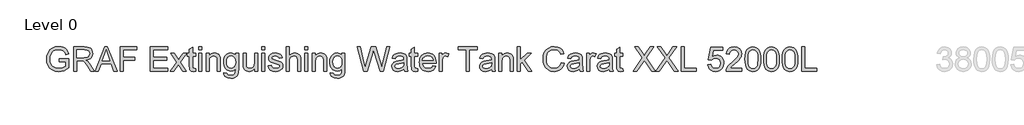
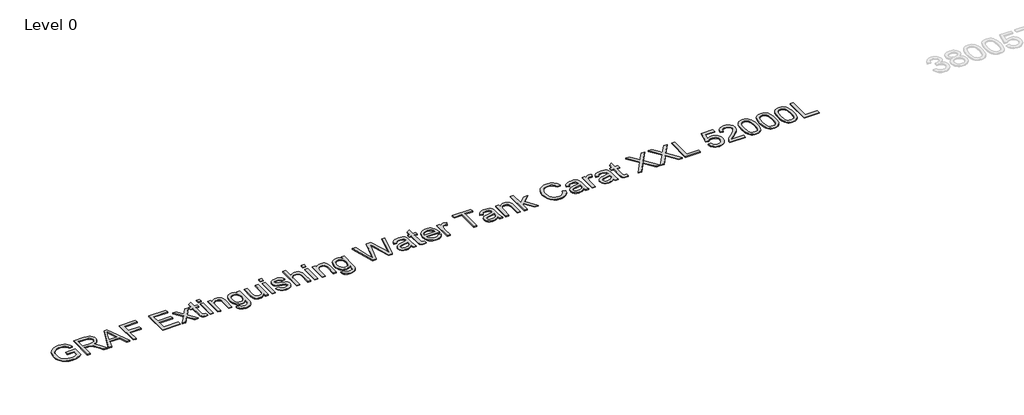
# One storey, part 6 of 37: 1 proxy.
"""IFC4 building model written with IfcOpenShell, lengths in millimetres."""

from ifc_helpers import new_model, si_unit, origin, origin_with_axes, place, context, project, spatial, polyline, outline, extrude, element, save

model = new_model("IFC4")

# Units and contexts
model_context = context("Model", 3, world=origin())
ifc_project = project(units=[si_unit("LENGTHUNIT", "METRE", prefix="MILLI")], contexts=[model_context])

# Site, building, storey
site = spatial("IfcSite", under=ifc_project)
building = spatial("IfcBuilding", under=site)
storey = spatial("IfcBuildingStorey", under=building, Name="Level 0", Elevation=0.0)

# Proxy
placement = place(None, origin())
element("IfcBuildingElementProxy", 1, Name="300mm Arial", ObjectType="300mm Arial", at=placement, inside=storey, context=model_context, shape_type="SweptSolid", body=[
    extrude(outline(polyline([(-17240.9940387, -29583.2545597), (-17240.9940387, -29545.5834434), (-17118.5629107, -29545.5834434), (-17118.5629107, -29658.2289103), (-17148.3153671, -29678.9222726), (-17179.0059225, -29693.7663111), (-17210.5610007, -29702.7058436), (-17242.9070251, -29705.6856877), (-17285.1674693, -29700.949207), (-17323.3628175, -29686.739765), (-17355.0926395, -29663.5540022), (-17377.9565055, -29631.8885595), (-17391.7796715, -29593.9047435), (-17396.3873935, -29551.7638609), (-17391.7980656, -29509.3194757), (-17378.0300819, -29469.8365406), (-17355.6536596, -29436.717964), (-17325.2390156, -29413.3666543), (-17288.1932987, -29399.5158972), (-17245.9236575, -29394.8989782), (-17214.8928112, -29397.5753197), (-17186.9889618, -29405.6043443), (-17163.4904994, -29418.4066377), (-17145.6758138, -29435.4027859), (-17132.4964413, -29457.4113262), (-17122.9039183, -29485.2507962), (-17157.6319786, -29495.0364573), (-17165.3850917, -29475.1800266), (-17174.8120678, -29460.1980323), (-17187.2832674, -29448.9040551), (-17204.169051, -29440.1116754), (-17224.3013932, -29434.4554897), (-17246.5122687, -29432.5700945), (-17272.5123287, -29434.6026425), (-17294.7415982, -29440.7002866), (-17313.1173039, -29450.0996716), (-17327.5566722, -29462.0374423), (-17346.9440533, -29491.0633317), (-17355.7732212, -29519.50061), (-17358.7162772, -29550.2187566), (-17355.175413, -29586.2436009), (-17344.5528204, -29615.8856927), (-17327.1703961, -29638.9334997), (-17303.3500369, -29655.1754898), (-17275.4737787, -29664.804801), (-17245.9236575, -29668.0145714), (-17219.831627, -29665.5957473), (-17194.3833899, -29658.3392749), (-17172.2828791, -29648.3420817), (-17156.234027, -29637.701095), (-17156.234027, -29583.2545597), (-17240.9940387, -29583.2545597)])), origin_with_axes(), (0.0, 0.0, 1.0), 10.0),
    extrude(outline(polyline([(-17057.3473467, -29700.9767982), (-17057.3473467, -29399.6078677), (-16927.4850024, -29399.6078677), (-16892.5821982, -29401.6404158), (-16867.1891434, -29407.7380598), (-16848.6294968, -29418.9952489), (-16834.2269167, -29436.5064318), (-16824.9838815, -29458.2206666), (-16821.9028698, -29482.087011), (-16827.0072325, -29511.7750881), (-16842.3203206, -29536.3863935), (-16853.9200997, -29546.4157764), (-16868.3019865, -29554.4310054), (-16905.4120827, -29564.4190016), (-16884.0013506, -29580.532233), (-16853.467145, -29619.3069952), (-16803.2144645, -29700.9767982), (-16846.9924219, -29700.9767982), (-16886.2086426, -29638.5104354), (-16914.5355562, -29597.1604991), (-16934.4379722, -29577.6259652), (-16952.3538253, -29570.4522663), (-16974.2060158, -29569.1278911), (-17019.6762304, -29569.1278911), (-17019.6762304, -29700.9767982), (-17057.3473467, -29700.9767982)]), holes=[polyline([(-17019.6762304, -29531.4567748), (-16935.3576771, -29531.4567748), (-16911.1418448, -29530.1232026), (-16892.3522719, -29526.1224859), (-16878.2072092, -29519.1879103), (-16867.9249074, -29509.0527613), (-16861.6617165, -29496.7930938), (-16859.5739861, -29483.4849626), (-16863.5563087, -29465.109257), (-16875.5032765, -29450.3020067), (-16896.058683, -29440.5347397), (-16925.8663217, -29437.278984), (-17019.6762304, -29437.278984), (-17019.6762304, -29531.4567748)])]), origin_with_axes(), (0.0, 0.0, 1.0), 10.0),
    extrude(outline(polyline([(-16791.0743586, -29700.9767982), (-16670.7769462, -29399.6078677), (-16638.6976362, -29399.6078677), (-16518.4002238, -29700.9767982), (-16558.2050557, -29700.9767982), (-16592.7123868, -29606.7990074), (-16716.835772, -29606.7990074), (-16751.2695268, -29700.9767982), (-16791.0743586, -29700.9767982)]), holes=[polyline([(-16703.003409, -29569.1278911), (-16606.4711735, -29569.1278911), (-16633.6208647, -29495.0364573), (-16654.7372912, -29437.278984), (-16673.499273, -29488.5617342), (-16703.003409, -29569.1278911)])]), origin_with_axes(), (0.0, 0.0, 1.0), 10.0),
    extrude(outline(polyline([(-16478.1539335, -29700.9767982), (-16478.1539335, -29399.6078677), (-16275.6716834, -29399.6078677), (-16275.6716834, -29437.278984), (-16440.4828172, -29437.278984), (-16440.4828172, -29526.7478853), (-16299.2161311, -29526.7478853), (-16299.2161311, -29564.4190016), (-16440.4828172, -29564.4190016), (-16440.4828172, -29700.9767982), (-16478.1539335, -29700.9767982)])), origin_with_axes(), (0.0, 0.0, 1.0), 10.0),
    extrude(outline(polyline([(-16106.15166, -29700.9767982), (-16106.15166, -29399.6078677), (-15889.5427413, -29399.6078677), (-15889.5427413, -29437.278984), (-16068.4805437, -29437.278984), (-16068.4805437, -29526.7478853), (-15898.9605203, -29526.7478853), (-15898.9605203, -29564.4190016), (-16068.4805437, -29564.4190016), (-16068.4805437, -29663.3056819), (-15884.8338517, -29663.3056819), (-15884.8338517, -29700.9767982), (-16106.15166, -29700.9767982)])), origin_with_axes(), (0.0, 0.0, 1.0), 10.0),
    extrude(outline(polyline([(-15856.5805145, -29700.9767982), (-15776.0879339, -29589.7292828), (-15851.8716249, -29479.6589899), (-15806.5485631, -29479.6589899), (-15769.9810928, -29532.6339972), (-15752.9113682, -29557.6499729), (-15738.122512, -29537.1957339), (-15696.4782702, -29479.6589899), (-15651.1552084, -29479.6589899), (-15730.7648721, -29589.7292828), (-15654.0982643, -29700.9767982), (-15699.4213261, -29700.9767982), (-15745.5537283, -29634.0958515), (-15754.0150142, -29621.8821692), (-15811.2574527, -29700.9767982), (-15856.5805145, -29700.9767982)])), origin_with_axes(), (0.0, 0.0, 1.0), 10.0),
    extrude(outline(polyline([(-15541.0849154, -29669.5596758), (-15536.3760259, -29702.0804442), (-15564.5557867, -29705.6856877), (-15582.6371868, -29704.1221892), (-15596.1200619, -29699.4316938), (-15605.6482056, -29692.2028126), (-15611.8654113, -29683.0241568), (-15615.2867139, -29667.2604133), (-15616.427148, -29640.276269), (-15616.427148, -29517.3301062), (-15644.6804853, -29517.3301062), (-15644.6804853, -29479.6589899), (-15616.427148, -29479.6589899), (-15616.427148, -29425.8746422), (-15578.7560317, -29403.7281461), (-15578.7560317, -29479.6589899), (-15541.0849154, -29479.6589899), (-15541.0849154, -29517.3301062), (-15578.7560317, -29517.3301062), (-15578.7560317, -29639.172623), (-15576.769469, -29658.5967923), (-15570.331534, -29665.4761856), (-15557.4924524, -29668.0145714), (-15541.0849154, -29669.5596758)])), origin_with_axes(), (0.0, 0.0, 1.0), 10.0),
    extrude(outline(polyline([(-15503.4137991, -29437.278984), (-15503.4137991, -29399.6078677), (-15465.7426828, -29399.6078677), (-15465.7426828, -29437.278984), (-15503.4137991, -29437.278984)])), origin_with_axes(), (0.0, 0.0, 1.0), 10.0),
    extrude(outline(polyline([(-15503.4137991, -29700.9767982), (-15503.4137991, -29479.6589899), (-15465.7426828, -29479.6589899), (-15465.7426828, -29700.9767982), (-15503.4137991, -29700.9767982)])), origin_with_axes(), (0.0, 0.0, 1.0), 10.0),
    extrude(outline(polyline([(-15409.2360084, -29700.9767982), (-15409.2360084, -29479.6589899), (-15371.564892, -29479.6589899), (-15371.564892, -29510.5610775), (-15358.4774901, -29494.981275), (-15342.7597318, -29483.8528446), (-15324.4116173, -29477.1757864), (-15303.4331465, -29474.9501003), (-15284.8643028, -29476.7435251), (-15267.8589576, -29482.1237992), (-15253.6771067, -29490.4195382), (-15243.5787459, -29500.9593574), (-15232.2847687, -29528.6608716), (-15230.2982059, -29565.0811892), (-15230.2982059, -29700.9767982), (-15267.9693222, -29700.9767982), (-15267.9693222, -29570.1579607), (-15272.3103297, -29536.8278519), (-15278.3160033, -29526.9042351), (-15287.6510089, -29519.2063044), (-15299.6163708, -29514.2674886), (-15313.5131132, -29512.6212166), (-15335.5768359, -29516.3184307), (-15354.3848029, -29527.4100729), (-15361.9010919, -29536.4645685), (-15367.2698698, -29548.8391991), (-15371.564892, -29583.5488653), (-15371.564892, -29700.9767982), (-15409.2360084, -29700.9767982)])), origin_with_axes(), (0.0, 0.0, 1.0), 10.0),
    extrude(outline(polyline([(-15187.9182001, -29719.8123563), (-15150.2470837, -29724.5212459), (-15146.0900172, -29736.2934697), (-15138.0334015, -29744.3868736), (-15122.1960816, -29750.6776557), (-15101.4659312, -29752.7745831), (-15079.3562233, -29750.4017442), (-15062.9118981, -29743.2832276), (-15051.5075562, -29731.8788858), (-15044.5177983, -29716.6485712), (-15041.9426244, -29672.7234609), (-15054.4782034, -29685.084296), (-15068.4669162, -29693.9134639), (-15083.908763, -29699.2109646), (-15100.8037436, -29700.9767982), (-15121.4580184, -29698.9212575), (-15139.6428852, -29692.7546356), (-15155.3583442, -29682.4769323), (-15168.6043953, -29668.0881478), (-15179.1143241, -29650.8252852), (-15186.621416, -29631.9253477), (-15191.1256712, -29611.3883353), (-15192.6270896, -29589.214248), (-15189.932354, -29558.7996041), (-15181.8481471, -29530.8313754), (-15168.6595776, -29507.1305779), (-15150.6517539, -29489.5182274), (-15128.4408785, -29478.5921321), (-15102.6431536, -29474.9501003), (-15085.0262045, -29477.0102395), (-15069.0371333, -29483.190657), (-15054.6759399, -29493.4913529), (-15041.9426244, -29507.9123271), (-15041.9426244, -29479.6589899), (-15004.2715081, -29479.6589899), (-15004.2715081, -29670.7368982), (-15006.846682, -29714.8551464), (-15014.5722039, -29743.908627), (-15027.8803351, -29763.1764465), (-15047.2033369, -29777.9377116), (-15072.118145, -29787.3187024), (-15102.2016952, -29790.4456994), (-15137.2516523, -29786.0403125), (-15164.851999, -29772.8241518), (-15175.2469646, -29762.9028343), (-15182.55632, -29750.7604292), (-15186.7800651, -29736.3969365), (-15187.9182001, -29719.8123563)]), holes=[polyline([(-15154.9559733, -29586.6390741), (-15150.9368625, -29621.1923905), (-15138.8795301, -29644.9483703), (-15120.7521448, -29658.716354), (-15098.5228752, -29663.3056819), (-15076.4591526, -29658.7439451), (-15058.2397968, -29645.0587349), (-15046.0169175, -29621.6062577), (-15041.9426244, -29587.7427201), (-15046.1364791, -29555.0839959), (-15058.7180433, -29531.5671394), (-15077.2041136, -29517.3576973), (-15099.1114864, -29512.6212166), (-15120.6233861, -29517.2841209), (-15138.6588009, -29531.2728338), (-15150.8816802, -29554.4402024), (-15154.9559733, -29586.6390741)])]), origin_with_axes(), (0.0, 0.0, 1.0), 10.0),
    extrude(outline(polyline([(-14806.4981475, -29700.9767982), (-14806.4981475, -29662.9377999), (-14820.1281754, -29681.6400008), (-14836.0022835, -29694.9987158), (-14854.1204717, -29703.0139447), (-14874.4827402, -29705.6856877), (-14892.8308547, -29703.8094895), (-14909.9097763, -29698.180895), (-14924.23878, -29689.7196091), (-14934.3371408, -29679.3453369), (-14945.5575416, -29651.6070344), (-14947.7648336, -29616.5846685), (-14947.7648336, -29479.6589899), (-14910.0937173, -29479.6589899), (-14910.0937173, -29598.8527563), (-14907.8128489, -29637.2596366), (-14902.3222101, -29650.0711271), (-14892.9136281, -29659.8108029), (-14880.2125022, -29665.9636293), (-14864.8442319, -29668.0145714), (-14848.5930448, -29665.917644), (-14833.3903213, -29659.6268619), (-14820.8547423, -29649.7216392), (-14812.6049886, -29636.78139), (-14808.0248577, -29619.0586749), (-14806.4981475, -29594.8060544), (-14806.4981475, -29479.6589899), (-14768.8270311, -29479.6589899), (-14768.8270311, -29700.9767982), (-14806.4981475, -29700.9767982)])), origin_with_axes(), (0.0, 0.0, 1.0), 10.0),
    extrude(outline(polyline([(-14717.0292462, -29437.278984), (-14717.0292462, -29399.6078677), (-14679.3581299, -29399.6078677), (-14679.3581299, -29437.278984), (-14717.0292462, -29437.278984)])), origin_with_axes(), (0.0, 0.0, 1.0), 10.0),
    extrude(outline(polyline([(-14717.0292462, -29700.9767982), (-14717.0292462, -29479.6589899), (-14679.3581299, -29479.6589899), (-14679.3581299, -29700.9767982), (-14717.0292462, -29700.9767982)])), origin_with_axes(), (0.0, 0.0, 1.0), 10.0),
    extrude(outline(polyline([(-14636.9781241, -29635.0523446), (-14599.3070078, -29630.3434551), (-14593.3657135, -29646.4566865), (-14581.8694012, -29658.3024867), (-14564.7444943, -29665.5865502), (-14541.9174165, -29668.0145714), (-14519.3662502, -29665.7888853), (-14503.5105362, -29659.1118271), (-14494.1295453, -29649.4365307), (-14491.0025484, -29638.2161298), (-14494.1479394, -29628.6144097), (-14503.5841126, -29621.293558), (-14542.3588749, -29610.5514038), (-14599.0862786, -29592.1205158), (-14613.4428734, -29582.8590866), (-14623.8447368, -29570.5994191), (-14630.1631101, -29556.1232626), (-14632.2692345, -29540.2123663), (-14630.5769774, -29525.6166481), (-14625.5002058, -29512.1429701), (-14617.4987724, -29500.324761), (-14607.0325297, -29490.6954497), (-14583.0834118, -29479.5486253), (-14550.673008, -29474.9501003), (-14526.153673, -29476.7987074), (-14504.8349114, -29482.3445284), (-14487.6916104, -29491.0449376), (-14475.6986574, -29502.357309), (-14467.7524063, -29517.118574), (-14462.7492112, -29536.1656643), (-14500.4203275, -29540.8745539), (-14505.1752023, -29529.0195566), (-14514.5837843, -29520.0892211), (-14528.738044, -29514.4882178), (-14547.729952, -29512.6212166), (-14569.3614134, -29514.4054443), (-14583.7823876, -29519.7581274), (-14591.8941856, -29527.4836493), (-14594.5981182, -29536.3863935), (-14590.1099579, -29547.349277), (-14576.0568657, -29555.6634101), (-14543.6096737, -29563.6832376), (-14488.3170098, -29581.4151497), (-14473.7120946, -29589.8948297), (-14462.6388466, -29601.5015067), (-14455.6582857, -29616.2719688), (-14453.3314321, -29634.2430043), (-14456.0629559, -29652.821045), (-14464.2575273, -29670.2954398), (-14477.6024467, -29685.2958281), (-14495.7850143, -29696.4518496), (-14517.7475694, -29703.3772282), (-14542.4324513, -29705.6856877), (-14580.4162673, -29701.2343156), (-14608.1361757, -29687.8801991), (-14626.64064, -29665.7704912), (-14636.9781241, -29635.0523446)])), origin_with_axes(), (0.0, 0.0, 1.0), 10.0),
    extrude(outline(polyline([(-14410.9514262, -29700.9767982), (-14410.9514262, -29399.6078677), (-14373.2803099, -29399.6078677), (-14373.2803099, -29510.4139247), (-14359.4433484, -29494.8985015), (-14343.9049326, -29483.8160564), (-14326.6650626, -29477.1665894), (-14307.7237384, -29474.9501003), (-14284.970237, -29477.3689245), (-14265.4173089, -29484.6253968), (-14250.0214474, -29496.1493003), (-14239.7391457, -29511.3704179), (-14233.9450043, -29532.2845093), (-14232.0136238, -29560.8873344), (-14232.0136238, -29700.9767982), (-14269.6847401, -29700.9767982), (-14269.6847401, -29564.7868836), (-14272.6829784, -29541.2056477), (-14281.6776931, -29525.0556281), (-14296.1722437, -29515.7298195), (-14315.6699895, -29512.6212166), (-14331.5900828, -29514.718144), (-14346.5352889, -29521.0089261), (-14358.914518, -29530.8865577), (-14367.1366806, -29543.7440334), (-14371.7444026, -29560.8321521), (-14373.2803099, -29583.4017125), (-14373.2803099, -29700.9767982), (-14410.9514262, -29700.9767982)])), origin_with_axes(), (0.0, 0.0, 1.0), 10.0),
    extrude(outline(polyline([(-14180.2158389, -29437.278984), (-14180.2158389, -29399.6078677), (-14142.5447226, -29399.6078677), (-14142.5447226, -29437.278984), (-14180.2158389, -29437.278984)])), origin_with_axes(), (0.0, 0.0, 1.0), 10.0),
    extrude(outline(polyline([(-14180.2158389, -29700.9767982), (-14180.2158389, -29479.6589899), (-14142.5447226, -29479.6589899), (-14142.5447226, -29700.9767982), (-14180.2158389, -29700.9767982)])), origin_with_axes(), (0.0, 0.0, 1.0), 10.0),
    extrude(outline(polyline([(-14086.0380481, -29700.9767982), (-14086.0380481, -29479.6589899), (-14048.3669318, -29479.6589899), (-14048.3669318, -29510.5610775), (-14035.2795298, -29494.981275), (-14019.5617716, -29483.8528446), (-14001.2136571, -29477.1757864), (-13980.2351863, -29474.9501003), (-13961.6663426, -29476.7435251), (-13944.6609974, -29482.1237992), (-13930.4791464, -29490.4195382), (-13920.3807857, -29500.9593574), (-13909.0868084, -29528.6608716), (-13907.1002456, -29565.0811892), (-13907.1002456, -29700.9767982), (-13944.771362, -29700.9767982), (-13944.771362, -29570.1579607), (-13949.1123695, -29536.8278519), (-13955.1180431, -29526.9042351), (-13964.4530487, -29519.2063044), (-13976.4184106, -29514.2674886), (-13990.315153, -29512.6212166), (-14012.3788756, -29516.3184307), (-14031.1868426, -29527.4100729), (-14038.7031316, -29536.4645685), (-14044.0719095, -29548.8391991), (-14048.3669318, -29583.5488653), (-14048.3669318, -29700.9767982), (-14086.0380481, -29700.9767982)])), origin_with_axes(), (0.0, 0.0, 1.0), 10.0),
    extrude(outline(polyline([(-13864.7202398, -29719.8123563), (-13827.0491235, -29724.5212459), (-13822.8920569, -29736.2934697), (-13814.8354413, -29744.3868736), (-13798.9981214, -29750.6776557), (-13778.2679709, -29752.7745831), (-13756.158263, -29750.4017442), (-13739.7139378, -29743.2832276), (-13728.309596, -29731.8788858), (-13721.3198381, -29716.6485712), (-13718.7446641, -29672.7234609), (-13731.2802431, -29685.084296), (-13745.268956, -29693.9134639), (-13760.7108027, -29699.2109646), (-13777.6057833, -29700.9767982), (-13798.2600581, -29698.9212575), (-13816.444925, -29692.7546356), (-13832.160384, -29682.4769323), (-13845.4064351, -29668.0881478), (-13855.9163638, -29650.8252852), (-13863.4234558, -29631.9253477), (-13867.9277109, -29611.3883353), (-13869.4291293, -29589.214248), (-13866.7343937, -29558.7996041), (-13858.6501869, -29530.8313754), (-13845.4616174, -29507.1305779), (-13827.4537937, -29489.5182274), (-13805.2429182, -29478.5921321), (-13779.4451933, -29474.9501003), (-13761.8282443, -29477.0102395), (-13745.8391731, -29483.190657), (-13731.4779797, -29493.4913529), (-13718.7446641, -29507.9123271), (-13718.7446641, -29479.6589899), (-13681.0735478, -29479.6589899), (-13681.0735478, -29670.7368982), (-13683.6487218, -29714.8551464), (-13691.3742437, -29743.908627), (-13704.6823748, -29763.1764465), (-13724.0053766, -29777.9377116), (-13748.9201848, -29787.3187024), (-13779.0037349, -29790.4456994), (-13814.053692, -29786.0403125), (-13841.6540387, -29772.8241518), (-13852.0490043, -29762.9028343), (-13859.3583597, -29750.7604292), (-13863.5821049, -29736.3969365), (-13864.7202398, -29719.8123563)]), holes=[polyline([(-13831.758013, -29586.6390741), (-13827.7389022, -29621.1923905), (-13815.6815698, -29644.9483703), (-13797.5541845, -29658.716354), (-13775.324915, -29663.3056819), (-13753.2611923, -29658.7439451), (-13735.0418365, -29645.0587349), (-13722.8189572, -29621.6062577), (-13718.7446641, -29587.7427201), (-13722.9385189, -29555.0839959), (-13735.5200831, -29531.5671394), (-13754.0061534, -29517.3576973), (-13775.9135262, -29512.6212166), (-13797.4254258, -29517.2841209), (-13815.4608406, -29531.2728338), (-13827.6837199, -29554.4402024), (-13831.758013, -29586.6390741)])]), origin_with_axes(), (0.0, 0.0, 1.0), 10.0),
    extrude(outline(polyline([(-13448.2042449, -29700.9767982), (-13530.3890826, -29399.6078677), (-13491.5407439, -29399.6078677), (-13443.8632373, -29597.6755339), (-13429.1479575, -29658.8175215), (-13413.4026081, -29604.7388682), (-13353.6585721, -29399.6078677), (-13297.6669324, -29399.6078677), (-13254.256857, -29548.3057702), (-13235.6604221, -29603.4880695), (-13221.9568178, -29658.8175215), (-13207.6829964, -29599.4413675), (-13159.5640314, -29399.6078677), (-13120.7156928, -29399.6078677), (-13202.9741069, -29700.9767982), (-13243.2203971, -29700.9767982), (-13315.472421, -29468.4753772), (-13325.5523877, -29436.0281853), (-13336.8831531, -29475.0972531), (-13402.7340303, -29700.9767982), (-13448.2042449, -29700.9767982)])), origin_with_axes(), (0.0, 0.0, 1.0), 10.0),
    extrude(outline(polyline([(-12946.4867798, -29672.7234609), (-12964.4854065, -29688.1561106), (-12983.017462, -29698.2544714), (-13002.5060107, -29703.8278836), (-13023.3741168, -29705.6856877), (-13054.8556186, -29701.2159215), (-13078.0781695, -29687.8066228), (-13092.3979762, -29667.4443543), (-13097.1712451, -29642.1156789), (-13095.3686233, -29626.4990883), (-13089.960758, -29612.3172373), (-13081.6190337, -29600.1771315), (-13071.0148352, -29590.685776), (-13044.6376962, -29578.324941), (-13012.0433514, -29572.6595583), (-12973.5261065, -29566.6998699), (-12946.707509, -29559.710112), (-12946.4867798, -29551.3224025), (-12949.0803479, -29534.5101954), (-12956.8610521, -29523.5105237), (-12974.2618705, -29515.3435434), (-12998.505294, -29512.6212166), (-13020.9460957, -29514.4330355), (-13036.6178687, -29519.868492), (-13047.3048406, -29529.9208675), (-13054.7912392, -29545.5834434), (-13092.4623555, -29540.8745539), (-13085.9232531, -29520.2731621), (-13076.1651831, -29504.0863544), (-13062.2776378, -29491.7071252), (-13043.3501092, -29482.5284694), (-13020.2011346, -29476.8446926), (-12993.6492516, -29474.9501003), (-12968.1826205, -29476.6239634), (-12947.995096, -29481.6455527), (-12932.7739785, -29489.1963306), (-12922.2065682, -29498.4577598), (-12915.1984162, -29509.9080869), (-12910.6550735, -29524.0255585), (-12908.8156635, -29556.9877853), (-12908.8156635, -29603.8559515), (-12906.9026772, -29669.3021584), (-12899.3978845, -29700.9767982), (-12937.0690008, -29700.9767982), (-12946.4867798, -29672.7234609)]), holes=[polyline([(-12946.4867798, -29597.3812283), (-13007.2608854, -29608.932723), (-13039.6712892, -29615.0395641), (-13054.3497808, -29624.972378), (-13059.5001288, -29639.4669286), (-13056.6950285, -29650.6689353), (-13048.2797279, -29659.8475911), (-13034.4381678, -29665.9728263), (-13015.3542893, -29668.0145714), (-12995.1207796, -29665.7612942), (-12977.2417146, -29659.0014625), (-12962.747164, -29649.0410575), (-12952.6671974, -29637.1860602), (-12948.1974311, -29624.972378), (-12946.707509, -29608.0498062), (-12946.4867798, -29597.3812283)])]), origin_with_axes(), (0.0, 0.0, 1.0), 10.0),
    extrude(outline(polyline([(-12776.9667565, -29669.5596758), (-12772.2578669, -29702.0804442), (-12800.4376278, -29705.6856877), (-12818.5190278, -29704.1221892), (-12832.0019029, -29699.4316938), (-12841.5300466, -29692.2028126), (-12847.7472523, -29683.0241568), (-12851.1685549, -29667.2604133), (-12852.3089891, -29640.276269), (-12852.3089891, -29517.3301062), (-12880.5623263, -29517.3301062), (-12880.5623263, -29479.6589899), (-12852.3089891, -29479.6589899), (-12852.3089891, -29425.8746422), (-12814.6378728, -29403.7281461), (-12814.6378728, -29479.6589899), (-12776.9667565, -29479.6589899), (-12776.9667565, -29517.3301062), (-12814.6378728, -29517.3301062), (-12814.6378728, -29639.172623), (-12812.65131, -29658.5967923), (-12806.2133751, -29665.4761856), (-12793.3742934, -29668.0145714), (-12776.9667565, -29669.5596758)])), origin_with_axes(), (0.0, 0.0, 1.0), 10.0),
    extrude(outline(polyline([(-12584.3437438, -29635.0523446), (-12547.4083915, -29639.7612342), (-12560.7165226, -29667.5915071), (-12581.9525108, -29688.3952339), (-12610.6381094, -29701.3630743), (-12646.2950718, -29705.6856877), (-12669.669374, -29703.8209859), (-12690.4960935, -29698.2268803), (-12708.7752301, -29688.9033709), (-12724.506784, -29675.8504579), (-12737.1573261, -29659.4314246), (-12746.1934276, -29640.0095545), (-12751.6150885, -29617.5848477), (-12753.4223088, -29592.157304), (-12751.5966944, -29565.8675369), (-12746.1198512, -29542.6955698), (-12736.9917792, -29522.6414025), (-12724.2124784, -29505.7050351), (-12708.5223113, -29492.2497512), (-12690.6616404, -29482.638834), (-12670.6304658, -29476.8722838), (-12648.4287873, -29474.9501003), (-12626.9421796, -29476.8676852), (-12607.5111124, -29482.6204399), (-12590.1355859, -29492.2083644), (-12574.8156001, -29505.6314587), (-12562.3099115, -29522.5310379), (-12553.3772768, -29542.548417), (-12548.017696, -29565.6835959), (-12546.2311691, -29591.9365748), (-12546.4518983, -29602.0901179), (-12715.7511925, -29602.0901179), (-12709.2304841, -29630.2882728), (-12694.0829429, -29651.0184232), (-12672.2215554, -29663.7655344), (-12645.5593078, -29668.0145714), (-12625.509739, -29666.0464027), (-12608.6239555, -29660.1418967), (-12594.901957, -29649.9331713), (-12584.3437438, -29635.0523446)]), holes=[polyline([(-12715.7511925, -29564.4190016), (-12583.9022854, -29564.4190016), (-12588.997451, -29544.5165856), (-12598.9854472, -29530.2795524), (-12620.9480023, -29517.0358006), (-12648.5759401, -29512.6212166), (-12673.9689949, -29516.1436868), (-12694.9658597, -29526.7110971), (-12709.5615779, -29543.1830134), (-12715.7511925, -29564.4190016)])]), origin_with_axes(), (0.0, 0.0, 1.0), 10.0),
    extrude(outline(polyline([(-12508.5600528, -29700.9767982), (-12508.5600528, -29479.6589899), (-12475.597826, -29479.6589899), (-12475.597826, -29512.4004875), (-12463.420932, -29493.4177765), (-12452.2005311, -29482.2341638), (-12440.9433421, -29476.7711162), (-12428.6560834, -29474.9501003), (-12409.8941017, -29477.8563681), (-12390.8378143, -29486.5751714), (-12403.4193786, -29520.3467385), (-12416.6631304, -29514.5525971), (-12429.9068822, -29512.6212166), (-12441.1548742, -29514.4790207), (-12451.2072497, -29520.052433), (-12459.3282448, -29528.918389), (-12464.7820954, -29540.6538247), (-12469.3622262, -29561.6966748), (-12470.8889365, -29584.6525113), (-12470.8889365, -29700.9767982), (-12508.5600528, -29700.9767982)])), origin_with_axes(), (0.0, 0.0, 1.0), 10.0),
    extrude(outline(polyline([(-12169.520006, -29700.9767982), (-12169.520006, -29437.278984), (-12268.4066863, -29437.278984), (-12268.4066863, -29399.6078677), (-12032.9622094, -29399.6078677), (-12032.9622094, -29437.278984), (-12131.8488897, -29437.278984), (-12131.8488897, -29700.9767982), (-12169.520006, -29700.9767982)])), origin_with_axes(), (0.0, 0.0, 1.0), 10.0),
    extrude(outline(polyline([(-11854.024407, -29672.7234609), (-11872.0230336, -29688.1561106), (-11890.5550891, -29698.2544714), (-11910.0436378, -29703.8278836), (-11930.911744, -29705.6856877), (-11962.3932457, -29701.2159215), (-11985.6157966, -29687.8066228), (-11999.9356033, -29667.4443543), (-12004.7088722, -29642.1156789), (-12002.9062504, -29626.4990883), (-11997.4983851, -29612.3172373), (-11989.1566608, -29600.1771315), (-11978.5524623, -29590.685776), (-11952.1753233, -29578.324941), (-11919.5809785, -29572.6595583), (-11881.0637336, -29566.6998699), (-11854.2451362, -29559.710112), (-11854.024407, -29551.3224025), (-11856.617975, -29534.5101954), (-11864.3986792, -29523.5105237), (-11881.7994976, -29515.3435434), (-11906.0429211, -29512.6212166), (-11928.4837228, -29514.4330355), (-11944.1554958, -29519.868492), (-11954.8424677, -29529.9208675), (-11962.3288663, -29545.5834434), (-11999.9999826, -29540.8745539), (-11993.4608802, -29520.2731621), (-11983.7028103, -29504.0863544), (-11969.8152649, -29491.7071252), (-11950.8877363, -29482.5284694), (-11927.7387617, -29476.8446926), (-11901.1868787, -29474.9501003), (-11875.7202476, -29476.6239634), (-11855.5327231, -29481.6455527), (-11840.3116056, -29489.1963306), (-11829.7441953, -29498.4577598), (-11822.7360433, -29509.9080869), (-11818.1927006, -29524.0255585), (-11816.3532907, -29556.9877853), (-11816.3532907, -29603.8559515), (-11814.4403043, -29669.3021584), (-11806.9355116, -29700.9767982), (-11844.6066279, -29700.9767982), (-11854.024407, -29672.7234609)]), holes=[polyline([(-11854.024407, -29597.3812283), (-11914.7985126, -29608.932723), (-11947.2089163, -29615.0395641), (-11961.8874079, -29624.972378), (-11967.0377559, -29639.4669286), (-11964.2326557, -29650.6689353), (-11955.817355, -29659.8475911), (-11941.975795, -29665.9728263), (-11922.8919165, -29668.0145714), (-11902.6584067, -29665.7612942), (-11884.7793418, -29659.0014625), (-11870.2847911, -29649.0410575), (-11860.2048245, -29637.1860602), (-11855.7350582, -29624.972378), (-11854.2451362, -29608.0498062), (-11854.024407, -29597.3812283)])]), origin_with_axes(), (0.0, 0.0, 1.0), 10.0),
    extrude(outline(polyline([(-11764.5555057, -29700.9767982), (-11764.5555057, -29479.6589899), (-11726.8843894, -29479.6589899), (-11726.8843894, -29510.5610775), (-11713.7969875, -29494.981275), (-11698.0792292, -29483.8528446), (-11679.7311147, -29477.1757864), (-11658.7526439, -29474.9501003), (-11640.1838002, -29476.7435251), (-11623.178455, -29482.1237992), (-11608.9966041, -29490.4195382), (-11598.8982433, -29500.9593574), (-11587.6042661, -29528.6608716), (-11585.6177033, -29565.0811892), (-11585.6177033, -29700.9767982), (-11623.2888196, -29700.9767982), (-11623.2888196, -29570.1579607), (-11627.6298271, -29536.8278519), (-11633.6355007, -29526.9042351), (-11642.9705063, -29519.2063044), (-11654.9358682, -29514.2674886), (-11668.8326106, -29512.6212166), (-11690.8963333, -29516.3184307), (-11709.7043003, -29527.4100729), (-11717.2205893, -29536.4645685), (-11722.5893671, -29548.8391991), (-11726.8843894, -29583.5488653), (-11726.8843894, -29700.9767982), (-11764.5555057, -29700.9767982)])), origin_with_axes(), (0.0, 0.0, 1.0), 10.0),
    extrude(outline(polyline([(-11533.8199184, -29700.9767982), (-11533.8199184, -29399.6078677), (-11496.1488021, -29399.6078677), (-11496.1488021, -29561.549522), (-11411.683096, -29479.6589899), (-11359.5910054, -29479.6589899), (-11445.0867811, -29562.5795916), (-11354.8821159, -29700.9767982), (-11398.8808025, -29700.9767982), (-11472.0893196, -29588.7727896), (-11496.1488021, -29612.0965081), (-11496.1488021, -29700.9767982), (-11533.8199184, -29700.9767982)])), origin_with_axes(), (0.0, 0.0, 1.0), 10.0),
    extrude(outline(polyline([(-10987.5887319, -29593.8495612), (-10949.9176156, -29603.5616459), (-10957.3718245, -29626.9888312), (-10967.3000399, -29647.4591649), (-10979.7022617, -29664.9726472), (-10994.5784898, -29679.5292779), (-11011.5930321, -29690.9727072), (-11030.4101962, -29699.1465853), (-11051.029982, -29704.0509121), (-11073.4523896, -29705.6856877), (-11117.1475736, -29700.7376749), (-11151.8480428, -29685.8936364), (-11178.445911, -29661.668607), (-11197.8332922, -29628.5776215), (-11209.6698954, -29589.6741005), (-11213.6154298, -29548.0114646), (-11209.1548606, -29504.0679603), (-11195.773153, -29466.1209325), (-11174.1692828, -29435.3751947), (-11145.0422259, -29413.0355606), (-11110.4981065, -29399.4331238), (-11072.6430492, -29394.8989782), (-11031.3390982, -29400.766696), (-11013.370362, -29408.1013433), (-10997.190452, -29418.3698495), (-10983.0660826, -29431.3009016), (-10971.2639684, -29446.6231867), (-10954.6265052, -29484.4414558), (-10992.2976215, -29493.4177765), (-11005.3574323, -29465.9461885), (-11023.1997091, -29447.1014333), (-11046.045181, -29436.2029292), (-11074.1145772, -29432.5700945), (-11106.4697987, -29436.5984023), (-11133.0492728, -29448.6833259), (-11153.2184032, -29467.5556722), (-11166.3425934, -29491.9462485), (-11173.5438834, -29519.5190041), (-11175.9443135, -29547.9378882), (-11173.102425, -29582.7395249), (-11164.5767598, -29612.8322721), (-11150.045421, -29637.0664986), (-11129.1865119, -29654.292573), (-11104.1797332, -29664.5840718), (-11077.2047859, -29668.0145714), (-11045.7600724, -29663.3424701), (-11019.5576773, -29649.3261661), (-10999.774823, -29626.1128122), (-10987.5887319, -29593.8495612)])), origin_with_axes(), (0.0, 0.0, 1.0), 10.0),
    extrude(outline(polyline([(-10761.5620341, -29672.7234609), (-10779.5606607, -29688.1561106), (-10798.0927162, -29698.2544714), (-10817.5812649, -29703.8278836), (-10838.4493711, -29705.6856877), (-10869.9308728, -29701.2159215), (-10893.1534238, -29687.8066228), (-10907.4732304, -29667.4443543), (-10912.2464993, -29642.1156789), (-10910.4438775, -29626.4990883), (-10905.0360122, -29612.3172373), (-10896.694288, -29600.1771315), (-10886.0900895, -29590.685776), (-10859.7129504, -29578.324941), (-10827.1186056, -29572.6595583), (-10788.6013607, -29566.6998699), (-10761.7827633, -29559.710112), (-10761.5620341, -29551.3224025), (-10764.1556022, -29534.5101954), (-10771.9363064, -29523.5105237), (-10789.3371247, -29515.3435434), (-10813.5805482, -29512.6212166), (-10836.0213499, -29514.4330355), (-10851.6931229, -29519.868492), (-10862.3800949, -29529.9208675), (-10869.8664935, -29545.5834434), (-10907.5376098, -29540.8745539), (-10900.9985073, -29520.2731621), (-10891.2404374, -29504.0863544), (-10877.3528921, -29491.7071252), (-10858.4253634, -29482.5284694), (-10835.2763889, -29476.8446926), (-10808.7245059, -29474.9501003), (-10783.2578748, -29476.6239634), (-10763.0703503, -29481.6455527), (-10747.8492327, -29489.1963306), (-10737.2818224, -29498.4577598), (-10730.2736704, -29509.9080869), (-10725.7303278, -29524.0255585), (-10723.8909178, -29556.9877853), (-10723.8909178, -29603.8559515), (-10721.9779314, -29669.3021584), (-10714.4731387, -29700.9767982), (-10752.144255, -29700.9767982), (-10761.5620341, -29672.7234609)]), holes=[polyline([(-10761.5620341, -29597.3812283), (-10822.3361397, -29608.932723), (-10854.7465435, -29615.0395641), (-10869.4250351, -29624.972378), (-10874.575383, -29639.4669286), (-10871.7702828, -29650.6689353), (-10863.3549822, -29659.8475911), (-10849.5134221, -29665.9728263), (-10830.4295436, -29668.0145714), (-10810.1960338, -29665.7612942), (-10792.3169689, -29659.0014625), (-10777.8224183, -29649.0410575), (-10767.7424516, -29637.1860602), (-10763.2726854, -29624.972378), (-10761.7827633, -29608.0498062), (-10761.5620341, -29597.3812283)])]), origin_with_axes(), (0.0, 0.0, 1.0), 10.0),
    extrude(outline(polyline([(-10672.0931329, -29700.9767982), (-10672.0931329, -29479.6589899), (-10639.1309061, -29479.6589899), (-10639.1309061, -29512.4004875), (-10626.9540121, -29493.4177765), (-10615.7336112, -29482.2341638), (-10604.4764221, -29476.7711162), (-10592.1891635, -29474.9501003), (-10573.4271818, -29477.8563681), (-10554.3708944, -29486.5751714), (-10566.9524586, -29520.3467385), (-10580.1962105, -29514.5525971), (-10593.4399623, -29512.6212166), (-10604.6879543, -29514.4790207), (-10614.7403298, -29520.052433), (-10622.8613249, -29528.918389), (-10628.3151754, -29540.6538247), (-10632.8953063, -29561.6966748), (-10634.4220166, -29584.6525113), (-10634.4220166, -29700.9767982), (-10672.0931329, -29700.9767982)])), origin_with_axes(), (0.0, 0.0, 1.0), 10.0),
    extrude(outline(polyline([(-10389.5597606, -29672.7234609), (-10407.5583872, -29688.1561106), (-10426.0904427, -29698.2544714), (-10445.5789914, -29703.8278836), (-10466.4470976, -29705.6856877), (-10497.9285993, -29701.2159215), (-10521.1511502, -29687.8066228), (-10535.4709569, -29667.4443543), (-10540.2442258, -29642.1156789), (-10538.441604, -29626.4990883), (-10533.0337387, -29612.3172373), (-10524.6920144, -29600.1771315), (-10514.0878159, -29590.685776), (-10487.7106769, -29578.324941), (-10455.1163321, -29572.6595583), (-10416.5990872, -29566.6998699), (-10389.7804898, -29559.710112), (-10389.5597606, -29551.3224025), (-10392.1533286, -29534.5101954), (-10399.9340328, -29523.5105237), (-10417.3348512, -29515.3435434), (-10441.5782747, -29512.6212166), (-10464.0190764, -29514.4330355), (-10479.6908494, -29519.868492), (-10490.3778213, -29529.9208675), (-10497.8642199, -29545.5834434), (-10535.5353362, -29540.8745539), (-10528.9962338, -29520.2731621), (-10519.2381639, -29504.0863544), (-10505.3506185, -29491.7071252), (-10486.4230899, -29482.5284694), (-10463.2741153, -29476.8446926), (-10436.7222323, -29474.9501003), (-10411.2556012, -29476.6239634), (-10391.0680767, -29481.6455527), (-10375.8469592, -29489.1963306), (-10365.2795489, -29498.4577598), (-10358.2713969, -29509.9080869), (-10353.7280542, -29524.0255585), (-10351.8886443, -29556.9877853), (-10351.8886443, -29603.8559515), (-10349.9756579, -29669.3021584), (-10342.4708652, -29700.9767982), (-10380.1419815, -29700.9767982), (-10389.5597606, -29672.7234609)]), holes=[polyline([(-10389.5597606, -29597.3812283), (-10450.3338662, -29608.932723), (-10482.7442699, -29615.0395641), (-10497.4227615, -29624.972378), (-10502.5731095, -29639.4669286), (-10499.7680093, -29650.6689353), (-10491.3527086, -29659.8475911), (-10477.5111486, -29665.9728263), (-10458.4272701, -29668.0145714), (-10438.1937603, -29665.7612942), (-10420.3146954, -29659.0014625), (-10405.8201448, -29649.0410575), (-10395.7401781, -29637.1860602), (-10391.2704118, -29624.972378), (-10389.7804898, -29608.0498062), (-10389.5597606, -29597.3812283)])]), origin_with_axes(), (0.0, 0.0, 1.0), 10.0),
    extrude(outline(polyline([(-10220.0397372, -29669.5596758), (-10215.3308476, -29702.0804442), (-10243.5106085, -29705.6856877), (-10261.5920085, -29704.1221892), (-10275.0748837, -29699.4316938), (-10284.6030273, -29692.2028126), (-10290.8202331, -29683.0241568), (-10294.2415356, -29667.2604133), (-10295.3819698, -29640.276269), (-10295.3819698, -29517.3301062), (-10323.635307, -29517.3301062), (-10323.635307, -29479.6589899), (-10295.3819698, -29479.6589899), (-10295.3819698, -29425.8746422), (-10257.7108535, -29403.7281461), (-10257.7108535, -29479.6589899), (-10220.0397372, -29479.6589899), (-10220.0397372, -29517.3301062), (-10257.7108535, -29517.3301062), (-10257.7108535, -29639.172623), (-10255.7242907, -29658.5967923), (-10249.2863558, -29665.4761856), (-10236.4472742, -29668.0145714), (-10220.0397372, -29669.5596758)])), origin_with_axes(), (0.0, 0.0, 1.0), 10.0),
    extrude(outline(polyline([(-10092.8997197, -29700.9767982), (-9976.7225856, -29536.7542755), (-10074.0641615, -29399.6078677), (-10028.8882525, -29399.6078677), (-9974.0738352, -29476.7895103), (-9955.6061591, -29506.8822575), (-9933.9746977, -29476.2744755), (-9879.7488916, -29399.6078677), (-9833.910795, -29399.6078677), (-9931.252371, -29537.1957339), (-9815.0752369, -29700.9767982), (-9860.2511459, -29700.9767982), (-9937.6535177, -29591.789422), (-9953.7667491, -29569.1278911), (-9971.4986612, -29593.996714), (-10047.0616231, -29700.9767982), (-10092.8997197, -29700.9767982)])), origin_with_axes(), (0.0, 0.0, 1.0), 10.0),
    extrude(outline(polyline([(-9810.3663474, -29700.9767982), (-9694.1892133, -29536.7542755), (-9791.5307892, -29399.6078677), (-9746.3548802, -29399.6078677), (-9691.5404629, -29476.7895103), (-9673.0727868, -29506.8822575), (-9651.4413254, -29476.2744755), (-9597.2155194, -29399.6078677), (-9551.3774228, -29399.6078677), (-9648.7189987, -29537.1957339), (-9532.5418646, -29700.9767982), (-9577.7177736, -29700.9767982), (-9655.1201454, -29591.789422), (-9671.2333768, -29569.1278911), (-9688.9652889, -29593.996714), (-9764.5282508, -29700.9767982), (-9810.3663474, -29700.9767982)])), origin_with_axes(), (0.0, 0.0, 1.0), 10.0),
    extrude(outline(polyline([(-9494.8707483, -29700.9767982), (-9494.8707483, -29399.6078677), (-9457.199632, -29399.6078677), (-9457.199632, -29663.3056819), (-9306.5151668, -29663.3056819), (-9306.5151668, -29700.9767982), (-9494.8707483, -29700.9767982)])), origin_with_axes(), (0.0, 0.0, 1.0), 10.0),
    extrude(outline(polyline([(-9160.5395911, -29620.925676), (-9122.8684748, -29616.2167865), (-9115.9522933, -29638.8323321), (-9103.8857638, -29655.028337), (-9086.7240687, -29664.7680128), (-9064.5223903, -29668.0145714), (-9037.5198519, -29663.4988199), (-9017.2863422, -29649.9515654), (-9004.6495956, -29628.9363065), (-9000.4373468, -29602.0165415), (-9004.3828812, -29576.669472), (-9016.2194844, -29557.2820909), (-9036.0391269, -29544.9764381), (-9063.9337791, -29540.8745539), (-9082.2083173, -29542.5116288), (-9097.0063705, -29547.4228534), (-9118.1595852, -29564.4190016), (-9155.8307015, -29559.710112), (-9122.8684748, -29404.3167573), (-8976.8928991, -29404.3167573), (-8976.8928991, -29441.9878736), (-9092.4078456, -29441.9878736), (-9108.521077, -29524.9820517), (-9081.610509, -29508.6480911), (-9053.4123541, -29503.2034376), (-9035.0665388, -29504.8910962), (-9018.2152442, -29509.9540722), (-9002.8584702, -29518.3923654), (-8988.9962167, -29530.205976), (-8977.5205977, -29544.6729355), (-8969.323727, -29561.0712754), (-8964.4056046, -29579.4009958), (-8962.7662305, -29599.6620967), (-8968.6707365, -29637.333213), (-8976.051369, -29654.1270261), (-8986.3842546, -29669.5596758), (-9002.0376335, -29685.364806), (-9020.3029745, -29696.6541847), (-9041.1802777, -29703.427812), (-9064.6695431, -29705.6856877), (-9101.6692748, -29699.8823492), (-9117.3479456, -29692.6281762), (-9131.1458197, -29682.4723338), (-9142.6260372, -29669.92066), (-9151.3517382, -29655.4789924), (-9160.5395911, -29620.925676)])), origin_with_axes(), (0.0, 0.0, 1.0), 10.0),
    extrude(outline(polyline([(-8736.7395326, -29663.3056819), (-8736.7395326, -29700.9767982), (-8934.5128932, -29700.9767982), (-8930.4661913, -29675.0043293), (-8921.1771709, -29654.7064402), (-8907.5839312, -29635.0155564), (-8887.9206386, -29614.4049677), (-8860.4214594, -29591.3479636), (-8819.7704989, -29555.2403458), (-8795.3799227, -29528.5872952), (-8783.1846345, -29506.9558339), (-8779.1195385, -29485.9129838), (-8782.9547083, -29467.0498345), (-8794.4602177, -29451.3688645), (-8812.1461446, -29440.8014541), (-8834.522567, -29437.278984), (-8858.0210294, -29440.7186807), (-8876.2771734, -29451.0377707), (-8888.0585943, -29467.4269135), (-8892.1328874, -29489.076769), (-8929.8040037, -29484.3678794), (-8920.6713332, -29447.9291678), (-8912.1249746, -29433.3932305), (-8900.9252671, -29421.3129054), (-8887.3297281, -29411.8169514), (-8871.595875, -29405.0341272), (-8833.7132266, -29399.6078677), (-8813.5234028, -29401.1161839), (-8795.5546666, -29405.6411325), (-8779.807018, -29413.1827134), (-8766.2804568, -29423.7409266), (-8755.4164417, -29436.534023), (-8747.6564308, -29450.7802533), (-8743.0004243, -29466.4796174), (-8741.4484222, -29483.6321154), (-8743.1222852, -29501.6491361), (-8748.1438745, -29519.3534572), (-8757.0558158, -29537.3612808), (-8770.4007352, -29556.2888095), (-8791.6735116, -29578.885961), (-8824.3690239, -29607.9026534), (-8867.7055229, -29644.1390299), (-8884.7016711, -29663.3056819), (-8736.7395326, -29663.3056819)])), origin_with_axes(), (0.0, 0.0, 1.0), 10.0),
    extrude(outline(polyline([(-8699.0684163, -29552.7203541), (-8696.3001043, -29504.4818275), (-8687.9951683, -29466.0105679), (-8674.2363817, -29436.717964), (-8655.1065179, -29416.0154047), (-8630.4676213, -29403.709752), (-8600.181736, -29399.6078677), (-8576.9683821, -29402.0358889), (-8556.1830494, -29409.3199524), (-8538.8006251, -29421.1749497), (-8525.7959966, -29437.3157722), (-8515.9735473, -29457.6044643), (-8508.1376608, -29481.9030701), (-8503.005707, -29512.7591724), (-8501.2950557, -29552.7203541), (-8504.0357766, -29600.6829692), (-8512.2579392, -29639.0622584), (-8525.9339523, -29668.3824534), (-8545.0362249, -29689.1677861), (-8569.7303039, -29701.5562123), (-8600.181736, -29705.6856877), (-8620.9302806, -29703.892263), (-8639.3243803, -29698.5119888), (-8655.3640353, -29689.5448652), (-8669.0492455, -29676.9908921), (-8682.1826327, -29654.2971715), (-8691.5636236, -29626.0208417), (-8697.1922182, -29592.1619025), (-8699.0684163, -29552.7203541)]), holes=[polyline([(-8661.3973, -29552.6467777), (-8656.9827161, -29611.9033701), (-8651.4644862, -29632.1713688), (-8643.7389643, -29646.1991691), (-8624.0204893, -29662.5607208), (-8600.181736, -29668.0145714), (-8576.3429827, -29662.5423267), (-8556.6245078, -29646.1255927), (-8548.8989859, -29632.0747997), (-8543.380756, -29611.8113996), (-8538.966172, -29552.6467777), (-8543.2336032, -29494.7237576), (-8548.5678921, -29474.5224375), (-8556.0358966, -29460.1612441), (-8575.7175833, -29442.9995491), (-8600.6231944, -29437.278984), (-8624.2044303, -29442.3189674), (-8643.1503531, -29457.4389174), (-8651.1333924, -29473.0739022), (-8656.8355633, -29494.1535405), (-8661.3973, -29552.6467777)])]), origin_with_axes(), (0.0, 0.0, 1.0), 10.0),
    extrude(outline(polyline([(-8468.332829, -29552.7203541), (-8465.5645169, -29504.4818275), (-8457.2595809, -29466.0105679), (-8443.5007943, -29436.717964), (-8424.3709305, -29416.0154047), (-8399.7320339, -29403.709752), (-8369.4461486, -29399.6078677), (-8346.2327948, -29402.0358889), (-8325.447462, -29409.3199524), (-8308.0650378, -29421.1749497), (-8295.0604092, -29437.3157722), (-8285.23796, -29457.6044643), (-8277.4020735, -29481.9030701), (-8272.2701196, -29512.7591724), (-8270.5594683, -29552.7203541), (-8273.3001892, -29600.6829692), (-8281.5223518, -29639.0622584), (-8295.198365, -29668.3824534), (-8314.3006376, -29689.1677861), (-8338.9947165, -29701.5562123), (-8369.4461486, -29705.6856877), (-8390.1946932, -29703.892263), (-8408.5887929, -29698.5119888), (-8424.6284479, -29689.5448652), (-8438.3136581, -29676.9908921), (-8451.4470454, -29654.2971715), (-8460.8280363, -29626.0208417), (-8466.4566308, -29592.1619025), (-8468.332829, -29552.7203541)]), holes=[polyline([(-8430.6617126, -29552.6467777), (-8426.2471287, -29611.9033701), (-8420.7288988, -29632.1713688), (-8413.0033769, -29646.1991691), (-8393.2849019, -29662.5607208), (-8369.4461486, -29668.0145714), (-8345.6073954, -29662.5423267), (-8325.8889204, -29646.1255927), (-8318.1633985, -29632.0747997), (-8312.6451686, -29611.8113996), (-8308.2305847, -29552.6467777), (-8312.4980158, -29494.7237576), (-8317.8323047, -29474.5224375), (-8325.3003092, -29460.1612441), (-8344.981996, -29442.9995491), (-8369.887607, -29437.278984), (-8393.4688429, -29442.3189674), (-8412.4147657, -29457.4389174), (-8420.397805, -29473.0739022), (-8426.0999759, -29494.1535405), (-8430.6617126, -29552.6467777)])]), origin_with_axes(), (0.0, 0.0, 1.0), 10.0),
    extrude(outline(polyline([(-8237.5972416, -29552.7203541), (-8234.8289296, -29504.4818275), (-8226.5239935, -29466.0105679), (-8212.7652069, -29436.717964), (-8193.6353432, -29416.0154047), (-8168.9964465, -29403.709752), (-8138.7105613, -29399.6078677), (-8115.4972074, -29402.0358889), (-8094.7118747, -29409.3199524), (-8077.3294504, -29421.1749497), (-8064.3248218, -29437.3157722), (-8054.5023726, -29457.6044643), (-8046.6664861, -29481.9030701), (-8041.5345322, -29512.7591724), (-8039.823881, -29552.7203541), (-8042.5646018, -29600.6829692), (-8050.7867644, -29639.0622584), (-8064.4627776, -29668.3824534), (-8083.5650502, -29689.1677861), (-8108.2591291, -29701.5562123), (-8138.7105613, -29705.6856877), (-8159.4591058, -29703.892263), (-8177.8532056, -29698.5119888), (-8193.8928606, -29689.5448652), (-8207.5780708, -29676.9908921), (-8220.711458, -29654.2971715), (-8230.0924489, -29626.0208417), (-8235.7210434, -29592.1619025), (-8237.5972416, -29552.7203541)]), holes=[polyline([(-8199.9261253, -29552.6467777), (-8195.5115413, -29611.9033701), (-8189.9933114, -29632.1713688), (-8182.2677895, -29646.1991691), (-8162.5493146, -29662.5607208), (-8138.7105613, -29668.0145714), (-8114.871808, -29662.5423267), (-8095.153333, -29646.1255927), (-8087.4278111, -29632.0747997), (-8081.9095812, -29611.8113996), (-8077.4949973, -29552.6467777), (-8081.7624284, -29494.7237576), (-8087.0967174, -29474.5224375), (-8094.5647219, -29460.1612441), (-8114.2464086, -29442.9995491), (-8139.1520197, -29437.278984), (-8162.7332556, -29442.3189674), (-8181.6791783, -29457.4389174), (-8189.6622176, -29473.0739022), (-8195.3643885, -29494.1535405), (-8199.9261253, -29552.6467777)])]), origin_with_axes(), (0.0, 0.0, 1.0), 10.0),
    extrude(outline(polyline([(-7992.7349856, -29700.9767982), (-7992.7349856, -29399.6078677), (-7955.0638693, -29399.6078677), (-7955.0638693, -29663.3056819), (-7804.3794041, -29663.3056819), (-7804.3794041, -29700.9767982), (-7992.7349856, -29700.9767982)])), origin_with_axes(), (0.0, 0.0, 1.0), 10.0),
])

save(model, "model.ifc")
